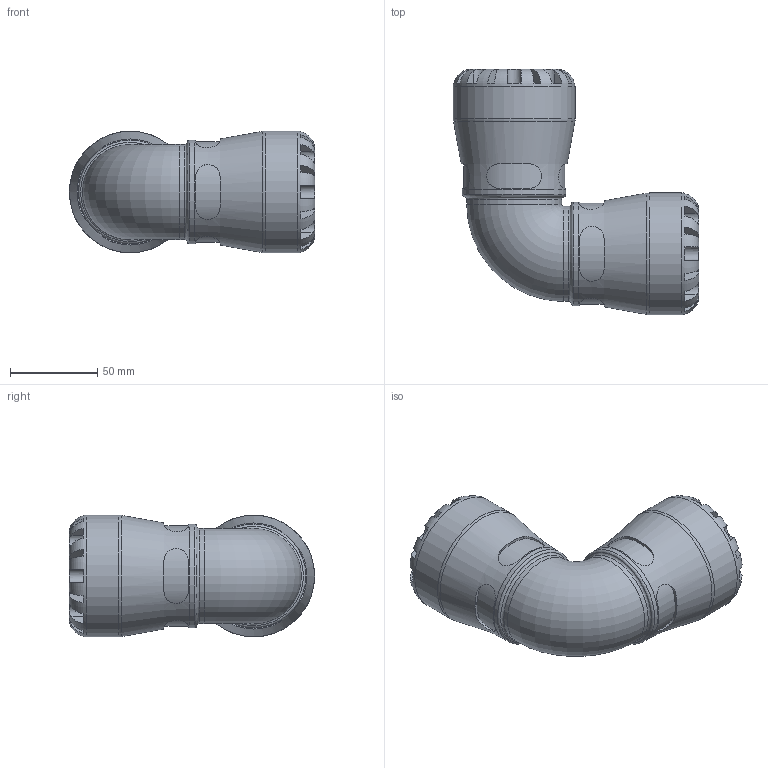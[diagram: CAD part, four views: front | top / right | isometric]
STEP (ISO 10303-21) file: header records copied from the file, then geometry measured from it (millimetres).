
FILE_DESCRIPTION(/* description */ ('PLASSON 90° ELBOW 40X40 SERIES 1'),/* implementation_level */ '2;1');
FILE_NAME(/* name */ 'C:\Dropbox\KIMPROJECTS-Inventor\99-16-3568-Processing\1005\100500040_190400040.ipt.stp',/* time_stamp */ '2017-01-22T11:44:21+02:00',/* author */ ('KIM'),/* organization */ (''),/* preprocessor_version */ 'ST-DEVELOPER v15.6',/* originating_system */ 'Autodesk Inventor 2015',/* authorisation */ '');
FILE_SCHEMA (('AUTOMOTIVE_DESIGN { 1 0 10303 214 3 1 1 }'));
Length unit declared in the file: millimetre
Products named in the file (1): 100500040_190400040
Bounding box: 141 x 141 x 70 mm (x, y, z)
Volume: 372377.5 mm3; surface area: 72197.5 mm2
Topology: 1 solids, 1 shells, 196 faces, 497 edges, 311 vertices
Faces by surface type: plane 116, cylinder 66, torus 12, cone 2
Full cylindrical faces by diameter (mm): 33.333 x2, 40 x2, 54.6 x2, 59.5 x2, 70 x2
Entity records: 7480 total; most frequent: CARTESIAN_POINT 2849, ORIENTED_EDGE 916, DIRECTION 894, EDGE_CURVE 458, AXIS2_PLACEMENT_3D 367, VERTEX_POINT 298, EDGE_LOOP 232, STYLED_ITEM 197
